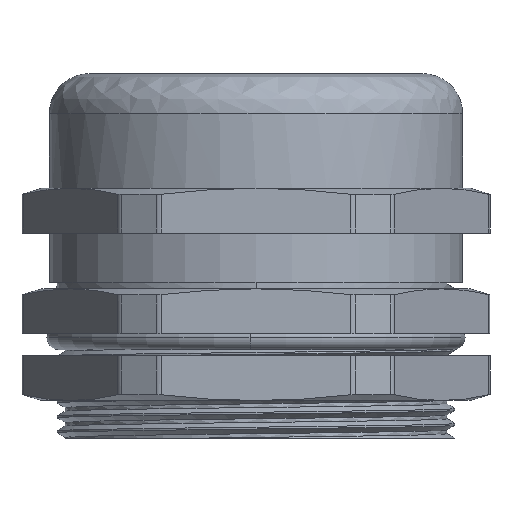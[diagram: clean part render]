
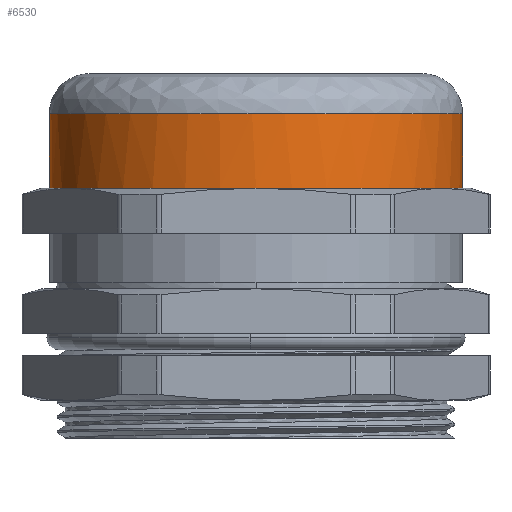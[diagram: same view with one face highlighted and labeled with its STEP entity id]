
A CAD part, left-side view. The second image highlights one B-rep face of the part: STEP entity #6530.
In plain terms, the highlighted cylindrical face has radius 20.75 mm (diameter 41.5 mm), a partial arc.
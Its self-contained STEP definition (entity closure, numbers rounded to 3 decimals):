
#535 = CARTESIAN_POINT ( 'NONE',  ( -20.616, 2.716, 12. ) ) ;
#610 = CARTESIAN_POINT ( 'NONE',  ( -10.399, -18.008, 12. ) ) ;
#688 = CARTESIAN_POINT ( 'NONE',  ( -18.008, 10.399, 12. ) ) ;
#761 = CARTESIAN_POINT ( 'NONE',  ( -19.69, 6.686, 12. ) ) ;
#807 = CIRCLE ( 'NONE', #5805, 20.75 ) ;
#1106 = CARTESIAN_POINT ( 'NONE',  ( 0., -20.75, 0. ) ) ;
#1116 = AXIS2_PLACEMENT_3D ( 'NONE', #1990, #13258, #5439 ) ;
#1726 = CARTESIAN_POINT ( 'NONE',  ( -13.712, -15.633, 12. ) ) ;
#1773 = EDGE_CURVE ( 'NONE', #6353, #10321, #11320, .T. ) ;
#1791 = CARTESIAN_POINT ( 'NONE',  ( -6.686, -19.69, 12. ) ) ;
#1869 = CARTESIAN_POINT ( 'NONE',  ( -18.008, -10.399, 12. ) ) ;
#1921 = FACE_OUTER_BOUND ( 'NONE', #9626, .T. ) ;
#1941 = CARTESIAN_POINT ( 'NONE',  ( -2.716, 20.616, 12. ) ) ;
#1990 = CARTESIAN_POINT ( 'NONE',  ( 0., 0., 0. ) ) ;
#2606 = CARTESIAN_POINT ( 'NONE',  ( 0., -20.75, 12. ) ) ;
#2915 = CARTESIAN_POINT ( 'NONE',  ( -1.358, 20.75, 12. ) ) ;
#3012 = ORIENTED_EDGE ( 'NONE', *, *, #7194, .T. ) ;
#3141 = CARTESIAN_POINT ( 'NONE',  ( -20.086, 5.38, 12. ) ) ;
#3586 = EDGE_CURVE ( 'NONE', #10321, #9888, #807, .T. ) ;
#4118 = CARTESIAN_POINT ( 'NONE',  ( 0., 20.75, 4.5 ) ) ;
#4124 = CARTESIAN_POINT ( 'NONE',  ( -19.69, -6.686, 12. ) ) ;
#4393 = CARTESIAN_POINT ( 'NONE',  ( 0., -20.75, 4.5 ) ) ;
#5095 = CARTESIAN_POINT ( 'NONE',  ( -10.399, 18.008, 12. ) ) ;
#5165 = CARTESIAN_POINT ( 'NONE',  ( -20.086, -5.38, 12. ) ) ;
#5237 = CARTESIAN_POINT ( 'NONE',  ( -12.657, 16.498, 12. ) ) ;
#5312 = CARTESIAN_POINT ( 'NONE',  ( -13.712, 15.633, 12. ) ) ;
#5387 = CARTESIAN_POINT ( 'NONE',  ( -16.498, 12.657, 12. ) ) ;
#5439 = DIRECTION ( 'NONE',  ( 0., 1., 0. ) ) ;
#5659 = DIRECTION ( 'NONE',  ( 0., 0., -1. ) ) ;
#5805 = AXIS2_PLACEMENT_3D ( 'NONE', #12837, #6960, #8092 ) ;
#6278 = CARTESIAN_POINT ( 'NONE',  ( -18.651, 9.195, 12. ) ) ;
#6350 = CARTESIAN_POINT ( 'NONE',  ( -15.633, -13.712, 12. ) ) ;
#6353 = VERTEX_POINT ( 'NONE', #2606 ) ;
#6425 = CARTESIAN_POINT ( 'NONE',  ( -1.358, -20.75, 12. ) ) ;
#6530 = ADVANCED_FACE ( 'NONE', ( #1921 ), #7519, .T. ) ;
#6809 = VECTOR ( 'NONE', #12112, 1000. ) ;
#6960 = DIRECTION ( 'NONE',  ( 0., 0., -1. ) ) ;
#7194 = EDGE_CURVE ( 'NONE', #8249, #9888, #14343, .T. ) ;
#7400 = CARTESIAN_POINT ( 'NONE',  ( -18.651, -9.195, 12. ) ) ;
#7519 = CYLINDRICAL_SURFACE ( 'NONE', #1116, 20.75 ) ;
#7617 = CARTESIAN_POINT ( 'NONE',  ( -20.616, -2.716, 12. ) ) ;
#7690 = CARTESIAN_POINT ( 'NONE',  ( -5.38, 20.086, 12. ) ) ;
#8092 = DIRECTION ( 'NONE',  ( -1., 0., 0. ) ) ;
#8249 = VERTEX_POINT ( 'NONE', #10805 ) ;
#8514 = CARTESIAN_POINT ( 'NONE',  ( -15.633, 13.712, 12. ) ) ;
#8810 = CARTESIAN_POINT ( 'NONE',  ( -2.716, -20.616, 12. ) ) ;
#9623 = CARTESIAN_POINT ( 'NONE',  ( 0., 20.75, 12. ) ) ;
#9626 = EDGE_LOOP ( 'NONE', ( #11471, #10856, #3012, #10453 ) ) ;
#9888 = VERTEX_POINT ( 'NONE', #4118 ) ;
#9920 = B_SPLINE_CURVE_WITH_KNOTS ( 'NONE', 3,
 ( #12165, #6425, #8810, #10815, #1791, #13058, #610, #14328, #1726, #6350, #11033, #1869, #7400, #4124, #5165, #7617, #14484, #10746, #535, #3141, #761, #6278, #688, #5387, #8514, #5312, #5237, #5095, #14405, #14173, #7690, #1941, #2915, #9623 ),
 .UNSPECIFIED., .F., .F.,
 ( 4, 2, 2, 2, 2, 2, 2, 2, 2, 2, 2, 2, 2, 2, 2, 2, 4 ),
 ( 0.5, 0.531, 0.563, 0.594, 0.625, 0.656, 0.688, 0.719, 0.75, 0.781, 0.812, 0.844, 0.875, 0.906, 0.938, 0.969, 1. ),
 .UNSPECIFIED. ) ;
#10321 = VERTEX_POINT ( 'NONE', #4393 ) ;
#10453 = ORIENTED_EDGE ( 'NONE', *, *, #3586, .F. ) ;
#10692 = CARTESIAN_POINT ( 'NONE',  ( 0., 20.75, 0. ) ) ;
#10746 = CARTESIAN_POINT ( 'NONE',  ( -20.75, 1.358, 12. ) ) ;
#10805 = CARTESIAN_POINT ( 'NONE',  ( 0., 20.75, 12. ) ) ;
#10815 = CARTESIAN_POINT ( 'NONE',  ( -5.38, -20.086, 12. ) ) ;
#10856 = ORIENTED_EDGE ( 'NONE', *, *, #11712, .T. ) ;
#11033 = CARTESIAN_POINT ( 'NONE',  ( -16.498, -12.657, 12. ) ) ;
#11068 = VECTOR ( 'NONE', #5659, 1000. ) ;
#11320 = LINE ( 'NONE', #1106, #11068 ) ;
#11471 = ORIENTED_EDGE ( 'NONE', *, *, #1773, .F. ) ;
#11712 = EDGE_CURVE ( 'NONE', #6353, #8249, #9920, .T. ) ;
#12112 = DIRECTION ( 'NONE',  ( 0., 0., -1. ) ) ;
#12165 = CARTESIAN_POINT ( 'NONE',  ( 0., -20.75, 12. ) ) ;
#12837 = CARTESIAN_POINT ( 'NONE',  ( 0., 0., 4.5 ) ) ;
#13058 = CARTESIAN_POINT ( 'NONE',  ( -9.195, -18.651, 12. ) ) ;
#13258 = DIRECTION ( 'NONE',  ( 0., 0., -1. ) ) ;
#14173 = CARTESIAN_POINT ( 'NONE',  ( -6.686, 19.69, 12. ) ) ;
#14328 = CARTESIAN_POINT ( 'NONE',  ( -12.657, -16.498, 12. ) ) ;
#14343 = LINE ( 'NONE', #10692, #6809 ) ;
#14405 = CARTESIAN_POINT ( 'NONE',  ( -9.195, 18.651, 12. ) ) ;
#14484 = CARTESIAN_POINT ( 'NONE',  ( -20.75, -1.358, 12. ) ) ;
